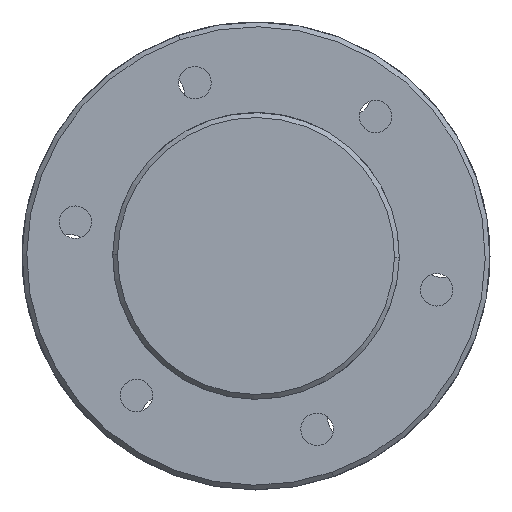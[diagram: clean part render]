
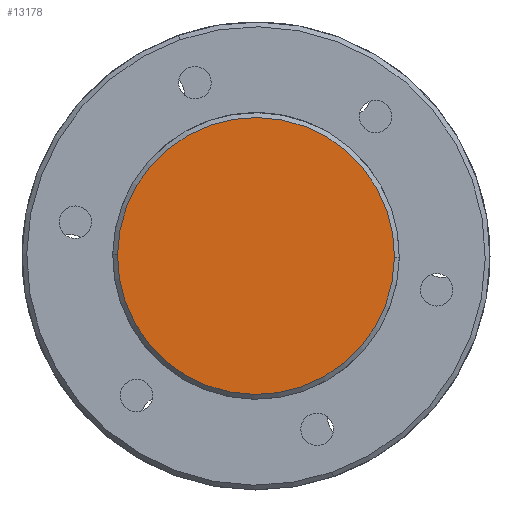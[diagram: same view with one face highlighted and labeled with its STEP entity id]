
A CAD part, left-side view. The second image highlights one B-rep face of the part: STEP entity #13178.
In plain terms, the highlighted planar face has unit normal (-1, 0, 0).
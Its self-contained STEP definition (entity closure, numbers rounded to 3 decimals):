
#307 = ORIENTED_EDGE ( 'NONE', *, *, #17013, .T. ) ;
#320 = AXIS2_PLACEMENT_3D ( 'NONE', #4517, #17887, #6270 ) ;
#1932 = AXIS2_PLACEMENT_3D ( 'NONE', #4368, #7911, #7801 ) ;
#2169 = CARTESIAN_POINT ( 'NONE',  ( 0., 0., 29. ) ) ;
#2822 = ORIENTED_EDGE ( 'NONE', *, *, #10143, .T. ) ;
#4057 = VERTEX_POINT ( 'NONE', #18449 ) ;
#4368 = CARTESIAN_POINT ( 'NONE',  ( 0., 0., 0. ) ) ;
#4517 = CARTESIAN_POINT ( 'NONE',  ( 0., 0., 0. ) ) ;
#6270 = DIRECTION ( 'NONE',  ( 0., 0., -1. ) ) ;
#7801 = DIRECTION ( 'NONE',  ( 0., 0., -1. ) ) ;
#7911 = DIRECTION ( 'NONE',  ( -1., 0., 0. ) ) ;
#8697 = DIRECTION ( 'NONE',  ( 1., 0., 0. ) ) ;
#8916 = CARTESIAN_POINT ( 'NONE',  ( 0., 0., 0. ) ) ;
#10143 = EDGE_CURVE ( 'NONE', #20158, #4057, #17435, .T. ) ;
#10343 = CIRCLE ( 'NONE', #1932, 29. ) ;
#12305 = AXIS2_PLACEMENT_3D ( 'NONE', #8916, #8697, #13935 ) ;
#13178 = ADVANCED_FACE ( 'NONE', ( #20380 ), #15137, .F. ) ;
#13935 = DIRECTION ( 'NONE',  ( 0., 0., -1. ) ) ;
#15137 = PLANE ( 'NONE',  #12305 ) ;
#17013 = EDGE_CURVE ( 'NONE', #4057, #20158, #10343, .T. ) ;
#17435 = CIRCLE ( 'NONE', #320, 29. ) ;
#17887 = DIRECTION ( 'NONE',  ( -1., 0., 0. ) ) ;
#18449 = CARTESIAN_POINT ( 'NONE',  ( 0., 0., -29. ) ) ;
#20158 = VERTEX_POINT ( 'NONE', #2169 ) ;
#20380 = FACE_OUTER_BOUND ( 'NONE', #21004, .T. ) ;
#21004 = EDGE_LOOP ( 'NONE', ( #307, #2822 ) ) ;
